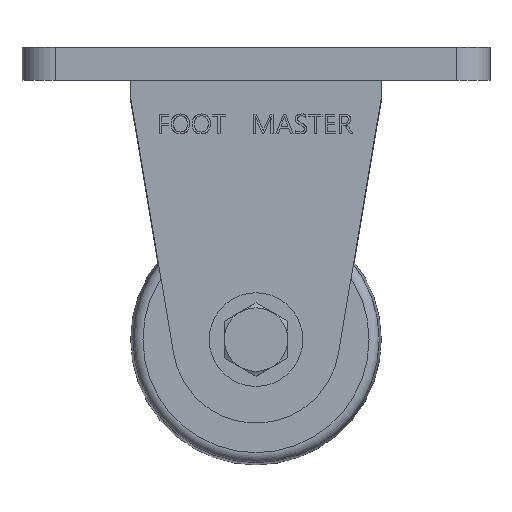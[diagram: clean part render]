
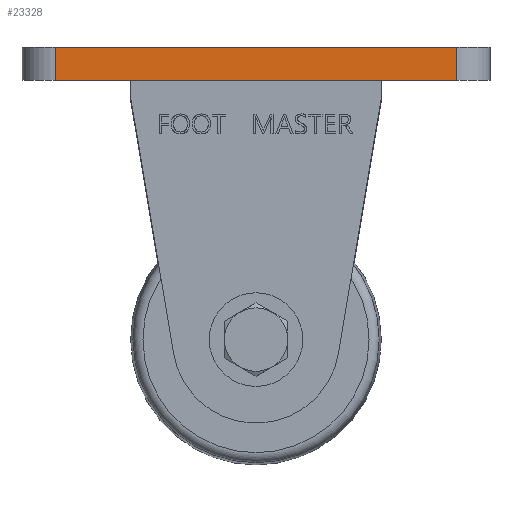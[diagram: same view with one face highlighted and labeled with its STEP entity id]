
A CAD part, front view. The second image highlights one B-rep face of the part: STEP entity #23328.
In plain terms, the highlighted planar face has unit normal (0, -1, 0).
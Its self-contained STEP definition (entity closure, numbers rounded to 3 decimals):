
#23270=CARTESIAN_POINT('',(69.996,-76.454,56.75));
#23271=VERTEX_POINT('',#23270);
#23279=CARTESIAN_POINT('',(69.996,-76.454,46.75));
#23280=VERTEX_POINT('',#23279);
#23281=CARTESIAN_POINT('',(69.996,-76.454,46.75));
#23282=DIRECTION('',(0.0,0.0,1.0));
#23283=VECTOR('',#23282,10.0);
#23284=LINE('',#23281,#23283);
#23285=EDGE_CURVE('',#23280,#23271,#23284,.T.);
#23298=CARTESIAN_POINT('',(69.996,-76.454,46.75));
#23299=DIRECTION('',(0.0,-1.0,0.0));
#23300=DIRECTION('',(0.0,0.0,-1.0));
#23301=AXIS2_PLACEMENT_3D('',#23298,#23299,#23300);
#23302=PLANE('',#23301);
#23303=CARTESIAN_POINT('',(-50.004,-76.454,56.75));
#23304=VERTEX_POINT('',#23303);
#23305=CARTESIAN_POINT('',(69.996,-76.454,56.75));
#23306=DIRECTION('',(-1.0,0.0,0.0));
#23307=VECTOR('',#23306,120.0);
#23308=LINE('',#23305,#23307);
#23309=EDGE_CURVE('',#23271,#23304,#23308,.T.);
#23310=ORIENTED_EDGE('',*,*,#23309,.T.);
#23311=CARTESIAN_POINT('',(-50.004,-76.454,46.75));
#23312=VERTEX_POINT('',#23311);
#23313=CARTESIAN_POINT('',(-50.004,-76.454,46.75));
#23314=DIRECTION('',(0.0,0.0,1.0));
#23315=VECTOR('',#23314,10.0);
#23316=LINE('',#23313,#23315);
#23317=EDGE_CURVE('',#23312,#23304,#23316,.T.);
#23318=ORIENTED_EDGE('',*,*,#23317,.F.);
#23319=CARTESIAN_POINT('',(69.996,-76.454,46.75));
#23320=DIRECTION('',(-1.0,0.0,0.0));
#23321=VECTOR('',#23320,120.0);
#23322=LINE('',#23319,#23321);
#23323=EDGE_CURVE('',#23280,#23312,#23322,.T.);
#23324=ORIENTED_EDGE('',*,*,#23323,.F.);
#23325=ORIENTED_EDGE('',*,*,#23285,.T.);
#23326=EDGE_LOOP('',(#23310,#23318,#23324,#23325));
#23327=FACE_OUTER_BOUND('',#23326,.T.);
#23328=ADVANCED_FACE('',(#23327),#23302,.T.);
